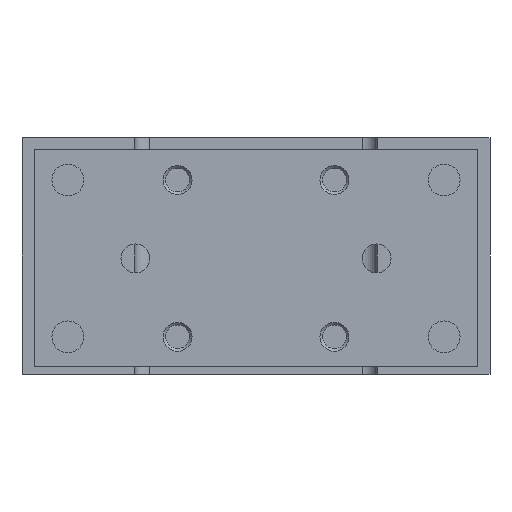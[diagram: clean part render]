
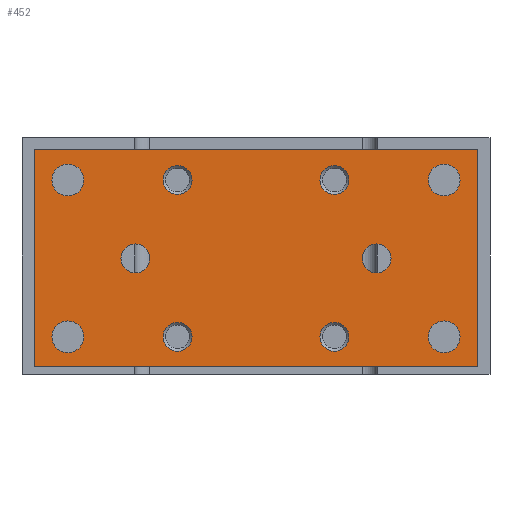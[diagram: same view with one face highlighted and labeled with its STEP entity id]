
A CAD part, left-side view. The second image highlights one B-rep face of the part: STEP entity #452.
In plain terms, the highlighted planar face has unit normal (-1, 0, 0).
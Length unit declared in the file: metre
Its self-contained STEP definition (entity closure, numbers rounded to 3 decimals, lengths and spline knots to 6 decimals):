
#452 = ADVANCED_FACE( '', ( #1162, #1163, #1164, #1165, #1166, #1167, #1168, #1169, #1170, #1171, #1172 ), #1173, .T. );
#1162 = FACE_BOUND( '', #2244, .T. );
#1163 = FACE_BOUND( '', #2245, .T. );
#1164 = FACE_BOUND( '', #2246, .T. );
#1165 = FACE_BOUND( '', #2247, .T. );
#1166 = FACE_BOUND( '', #2248, .T. );
#1167 = FACE_BOUND( '', #2249, .T. );
#1168 = FACE_BOUND( '', #2250, .T. );
#1169 = FACE_BOUND( '', #2251, .T. );
#1170 = FACE_BOUND( '', #2252, .T. );
#1171 = FACE_BOUND( '', #2253, .T. );
#1172 = FACE_OUTER_BOUND( '', #2254, .T. );
#1173 = PLANE( '', #2255 );
#2244 = EDGE_LOOP( '', ( #3542 ) );
#2245 = EDGE_LOOP( '', ( #3543 ) );
#2246 = EDGE_LOOP( '', ( #3544 ) );
#2247 = EDGE_LOOP( '', ( #3545 ) );
#2248 = EDGE_LOOP( '', ( #3546 ) );
#2249 = EDGE_LOOP( '', ( #3547 ) );
#2250 = EDGE_LOOP( '', ( #3548 ) );
#2251 = EDGE_LOOP( '', ( #3549 ) );
#2252 = EDGE_LOOP( '', ( #3550 ) );
#2253 = EDGE_LOOP( '', ( #3551 ) );
#2254 = EDGE_LOOP( '', ( #3552, #3553, #3554, #3555 ) );
#2255 = AXIS2_PLACEMENT_3D( '', #3556, #3557, #3558 );
#3542 = ORIENTED_EDGE( '', *, *, #5238, .T. );
#3543 = ORIENTED_EDGE( '', *, *, #5060, .F. );
#3544 = ORIENTED_EDGE( '', *, *, #5239, .F. );
#3545 = ORIENTED_EDGE( '', *, *, #5240, .T. );
#3546 = ORIENTED_EDGE( '', *, *, #5241, .F. );
#3547 = ORIENTED_EDGE( '', *, *, #5207, .T. );
#3548 = ORIENTED_EDGE( '', *, *, #5242, .T. );
#3549 = ORIENTED_EDGE( '', *, *, #5189, .F. );
#3550 = ORIENTED_EDGE( '', *, *, #5071, .F. );
#3551 = ORIENTED_EDGE( '', *, *, #5243, .T. );
#3552 = ORIENTED_EDGE( '', *, *, #5244, .T. );
#3553 = ORIENTED_EDGE( '', *, *, #5001, .T. );
#3554 = ORIENTED_EDGE( '', *, *, #5210, .T. );
#3555 = ORIENTED_EDGE( '', *, *, #5245, .T. );
#3556 = CARTESIAN_POINT( '', ( -0.0785, 0.046, -0.0475 ) );
#3557 = DIRECTION( '', ( -1., 0., 0. ) );
#3558 = DIRECTION( '', ( 0., 0., -1. ) );
#5001 = EDGE_CURVE( '', #5724, #5722, #5725, .T. );
#5060 = EDGE_CURVE( '', #5825, #5825, #5826, .T. );
#5071 = EDGE_CURVE( '', #5842, #5842, #5843, .T. );
#5189 = EDGE_CURVE( '', #6040, #6040, #6041, .T. );
#5207 = EDGE_CURVE( '', #6063, #6063, #6064, .T. );
#5210 = EDGE_CURVE( '', #5722, #6066, #6068, .T. );
#5238 = EDGE_CURVE( '', #6109, #6109, #6110, .T. );
#5239 = EDGE_CURVE( '', #6111, #6111, #6112, .T. );
#5240 = EDGE_CURVE( '', #6113, #6113, #6114, .T. );
#5241 = EDGE_CURVE( '', #6115, #6115, #6116, .T. );
#5242 = EDGE_CURVE( '', #6117, #6117, #6118, .T. );
#5243 = EDGE_CURVE( '', #6119, #6119, #6120, .T. );
#5244 = EDGE_CURVE( '', #6121, #5724, #6122, .T. );
#5245 = EDGE_CURVE( '', #6066, #6121, #6123, .T. );
#5722 = VERTEX_POINT( '', #6793 );
#5724 = VERTEX_POINT( '', #6796 );
#5725 = LINE( '', #6797, #6798 );
#5825 = VERTEX_POINT( '', #6918 );
#5826 = CIRCLE( '', #6919, 0.003 );
#5842 = VERTEX_POINT( '', #6939 );
#5843 = CIRCLE( '', #6940, 0.0033 );
#6040 = VERTEX_POINT( '', #7201 );
#6041 = CIRCLE( '', #7202, 0.0033 );
#6063 = VERTEX_POINT( '', #7230 );
#6064 = CIRCLE( '', #7231, 0.003 );
#6066 = VERTEX_POINT( '', #7233 );
#6068 = LINE( '', #7236, #7237 );
#6109 = VERTEX_POINT( '', #7278 );
#6110 = CIRCLE( '', #7279, 0.003 );
#6111 = VERTEX_POINT( '', #7280 );
#6112 = CIRCLE( '', #7281, 0.003 );
#6113 = VERTEX_POINT( '', #7282 );
#6114 = CIRCLE( '', #7283, 0.003 );
#6115 = VERTEX_POINT( '', #7284 );
#6116 = CIRCLE( '', #7285, 0.003 );
#6117 = VERTEX_POINT( '', #7286 );
#6118 = CIRCLE( '', #7287, 0.0033 );
#6119 = VERTEX_POINT( '', #7288 );
#6120 = CIRCLE( '', #7289, 0.0033 );
#6121 = VERTEX_POINT( '', #7290 );
#6122 = LINE( '', #7291, #7292 );
#6123 = LINE( '', #7293, #7294 );
#6793 = CARTESIAN_POINT( '', ( -0.0785, -0.046, -0.0475 ) );
#6796 = CARTESIAN_POINT( '', ( -0.0785, 0.046, -0.0475 ) );
#6797 = CARTESIAN_POINT( '', ( -0.0785, 0.046, -0.0475 ) );
#6798 = VECTOR( '', #8157, 1. );
#6918 = CARTESIAN_POINT( '', ( -0.0785, -0.01925, -0.04125 ) );
#6919 = AXIS2_PLACEMENT_3D( '', #8247, #8248, #8249 );
#6939 = CARTESIAN_POINT( '', ( -0.0785, 0.0357, -0.04125 ) );
#6940 = AXIS2_PLACEMENT_3D( '', #8260, #8261, #8262 );
#7201 = CARTESIAN_POINT( '', ( -0.0785, -0.0357, -0.00875 ) );
#7202 = AXIS2_PLACEMENT_3D( '', #8459, #8460, #8461 );
#7230 = CARTESIAN_POINT( '', ( -0.0785, -0.028, -0.025 ) );
#7231 = AXIS2_PLACEMENT_3D( '', #8477, #8478, #8479 );
#7233 = CARTESIAN_POINT( '', ( -0.0785, -0.046, -0.0025 ) );
#7236 = CARTESIAN_POINT( '', ( -0.0785, -0.046, -0.0475 ) );
#7237 = VECTOR( '', #8481, 1. );
#7278 = CARTESIAN_POINT( '', ( -0.0785, 0.01925, -0.04125 ) );
#7279 = AXIS2_PLACEMENT_3D( '', #8530, #8531, #8532 );
#7280 = CARTESIAN_POINT( '', ( -0.0785, 0.01925, -0.00875 ) );
#7281 = AXIS2_PLACEMENT_3D( '', #8533, #8534, #8535 );
#7282 = CARTESIAN_POINT( '', ( -0.0785, -0.01925, -0.00875 ) );
#7283 = AXIS2_PLACEMENT_3D( '', #8536, #8537, #8538 );
#7284 = CARTESIAN_POINT( '', ( -0.0785, 0.028, -0.025 ) );
#7285 = AXIS2_PLACEMENT_3D( '', #8539, #8540, #8541 );
#7286 = CARTESIAN_POINT( '', ( -0.0785, 0.0357, -0.00875 ) );
#7287 = AXIS2_PLACEMENT_3D( '', #8542, #8543, #8544 );
#7288 = CARTESIAN_POINT( '', ( -0.0785, -0.0357, -0.04125 ) );
#7289 = AXIS2_PLACEMENT_3D( '', #8545, #8546, #8547 );
#7290 = CARTESIAN_POINT( '', ( -0.0785, 0.046, -0.0025 ) );
#7291 = CARTESIAN_POINT( '', ( -0.0785, 0.046, -0.0025 ) );
#7292 = VECTOR( '', #8548, 1. );
#7293 = CARTESIAN_POINT( '', ( -0.0785, -0.046, -0.0025 ) );
#7294 = VECTOR( '', #8549, 1. );
#8157 = DIRECTION( '', ( 0., -1., 0. ) );
#8247 = CARTESIAN_POINT( '', ( -0.0785, -0.01625, -0.04125 ) );
#8248 = DIRECTION( '', ( -1., 0., 0. ) );
#8249 = DIRECTION( '', ( 0., -1., 0. ) );
#8260 = CARTESIAN_POINT( '', ( -0.0785, 0.039, -0.04125 ) );
#8261 = DIRECTION( '', ( -1., 0., 0. ) );
#8262 = DIRECTION( '', ( 0., -1., 0. ) );
#8459 = CARTESIAN_POINT( '', ( -0.0785, -0.039, -0.00875 ) );
#8460 = DIRECTION( '', ( -1., 0., 0. ) );
#8461 = DIRECTION( '', ( 0., 1., 0. ) );
#8477 = CARTESIAN_POINT( '', ( -0.0785, -0.025, -0.025 ) );
#8478 = DIRECTION( '', ( 1., 0., 0. ) );
#8479 = DIRECTION( '', ( 0., -1., 0. ) );
#8481 = DIRECTION( '', ( 0., 0., 1. ) );
#8530 = CARTESIAN_POINT( '', ( -0.0785, 0.01625, -0.04125 ) );
#8531 = DIRECTION( '', ( 1., 0., 0. ) );
#8532 = DIRECTION( '', ( 0., 1., 0. ) );
#8533 = CARTESIAN_POINT( '', ( -0.0785, 0.01625, -0.00875 ) );
#8534 = DIRECTION( '', ( -1., 0., 0. ) );
#8535 = DIRECTION( '', ( 0., 1., 0. ) );
#8536 = CARTESIAN_POINT( '', ( -0.0785, -0.01625, -0.00875 ) );
#8537 = DIRECTION( '', ( 1., 0., 0. ) );
#8538 = DIRECTION( '', ( 0., -1., 0. ) );
#8539 = CARTESIAN_POINT( '', ( -0.0785, 0.025, -0.025 ) );
#8540 = DIRECTION( '', ( -1., 0., 0. ) );
#8541 = DIRECTION( '', ( 0., 1., 0. ) );
#8542 = CARTESIAN_POINT( '', ( -0.0785, 0.039, -0.00875 ) );
#8543 = DIRECTION( '', ( 1., 0., 0. ) );
#8544 = DIRECTION( '', ( 0., -1., 0. ) );
#8545 = CARTESIAN_POINT( '', ( -0.0785, -0.039, -0.04125 ) );
#8546 = DIRECTION( '', ( 1., 0., 0. ) );
#8547 = DIRECTION( '', ( 0., 1., 0. ) );
#8548 = DIRECTION( '', ( 0., 0., -1. ) );
#8549 = DIRECTION( '', ( 0., 1., 0. ) );
